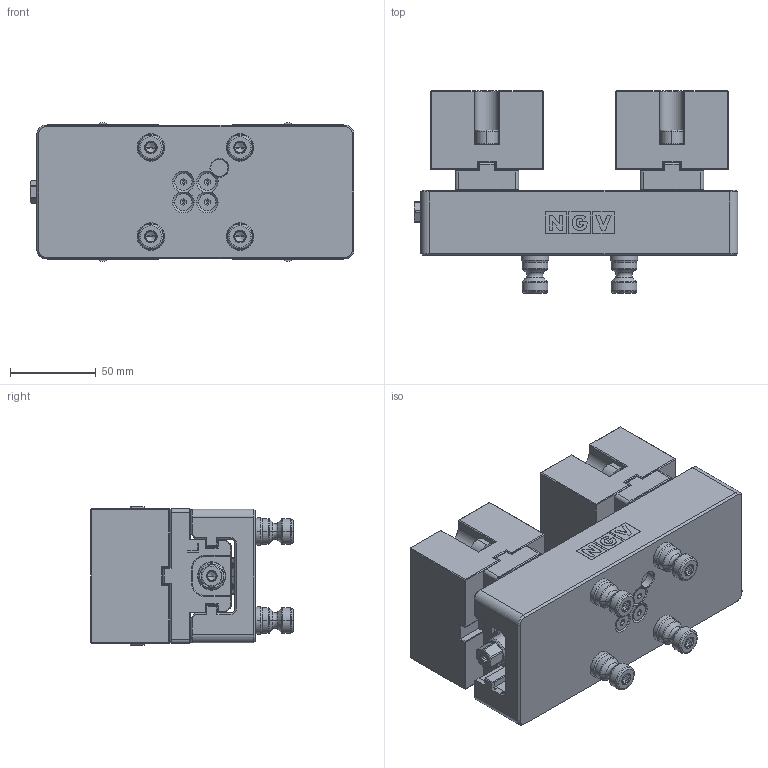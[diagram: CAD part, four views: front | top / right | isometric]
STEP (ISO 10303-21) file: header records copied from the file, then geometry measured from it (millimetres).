
FILE_DESCRIPTION((''),'2;1');
FILE_NAME('SJV78L_00_0_ASM','2025-06-26T',('tibi'),(''),'PRO/ENGINEER BY PARAMETRIC TECHNOLOGY CORPORATION, 2010280','PRO/ENGINEER BY PARAMETRIC TECHNOLOGY CORPORATION, 2010280','');
FILE_SCHEMA(('CONFIG_CONTROL_DESIGN'));
Length unit declared in the file: millimetre
Products named in the file (13): CORP_2; SEMICUPLA; SURUB_2; INEL_O_10SI5X1SI75; SURUB_M5X12; BJSM78-1-01-0_SANIE; BJSM78-1-02-0_SANIE_STANGA; BJSM78-1-03-0_BAC_MOALE_OTEL; SURUB_CAP_INBUS_M8X25; PIN_CENTRARE; STIFT_FILETAT_M8X20; SASS_PIN_ASM; SJV78L_00_0_ASM
Assembly tree (24 placements, depth 3):
  SJV78L_00_0_ASM
    CORP_2
    SEMICUPLA  x2
    SURUB_2
    INEL_O_10SI5X1SI75  x2
    SURUB_M5X12  x4
    BJSM78-1-01-0_SANIE
    BJSM78-1-02-0_SANIE_STANGA
    BJSM78-1-03-0_BAC_MOALE_OTEL  x2
    SURUB_CAP_INBUS_M8X25  x4
    SASS_PIN_ASM  x4
      PIN_CENTRARE
      STIFT_FILETAT_M8X20
Bounding box: 189 x 118 x 81 mm (x, y, z)
Volume: 971169.1 mm3; surface area: 188799.3 mm2
Topology: 26 solids, 54 shells, 1813 faces, 4496 edges, 2761 vertices
Faces by surface type: plane 974, cylinder 368, cone 333, torus 84, extrusion 38, bspline 16
Entity records: 36841 total; most frequent: CARTESIAN_POINT 7764, ORIENTED_EDGE 5934, DIRECTION 5929, EDGE_CURVE 3005, VECTOR 2111, LINE 2073, AXIS2_PLACEMENT_3D 1909, VERTEX_POINT 1882
